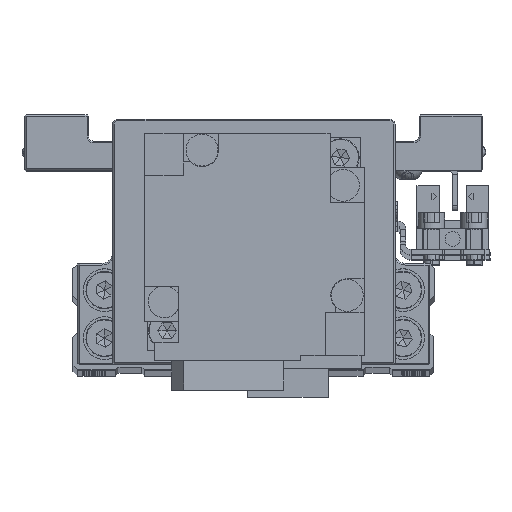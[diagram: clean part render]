
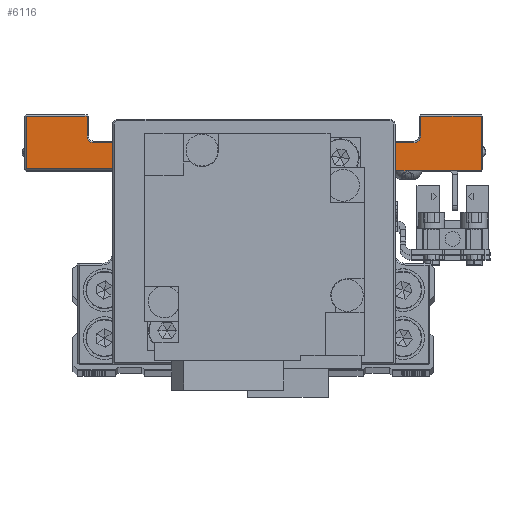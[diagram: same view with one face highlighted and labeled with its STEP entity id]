
A CAD part, top view. The second image highlights one B-rep face of the part: STEP entity #6116.
In plain terms, the highlighted planar face has unit normal (0, 0, 1) as drawn and (1, 0, 0) by its records, which use the part's own axes.
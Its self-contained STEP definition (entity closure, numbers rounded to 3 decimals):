
#69 = VERTEX_POINT ( 'NONE', #32636 ) ;
#79 = CARTESIAN_POINT ( 'NONE',  ( 45., 12.7, -30. ) ) ;
#896 = VECTOR ( 'NONE', #6924, 1000. ) ;
#930 = FACE_OUTER_BOUND ( 'NONE', #23410, .T. ) ;
#946 = CARTESIAN_POINT ( 'NONE',  ( 45., 7.8, 20. ) ) ;
#1246 = EDGE_CURVE ( 'NONE', #10537, #13513, #21040, .T. ) ;
#1362 = CARTESIAN_POINT ( 'NONE',  ( 45., 7.8, 42.7 ) ) ;
#1601 = CARTESIAN_POINT ( 'NONE',  ( 45., 7.5, 43. ) ) ;
#1937 = LINE ( 'NONE', #13317, #9819 ) ;
#2033 = VECTOR ( 'NONE', #12325, 1000. ) ;
#2083 = DIRECTION ( 'NONE',  ( -1., 0., 0. ) ) ;
#2484 = LINE ( 'NONE', #13850, #21450 ) ;
#2718 = EDGE_CURVE ( 'NONE', #5836, #23742, #11555, .T. ) ;
#2982 = ORIENTED_EDGE ( 'NONE', *, *, #11418, .T. ) ;
#3302 = CIRCLE ( 'NONE', #24079, 1.3 ) ;
#3801 = CARTESIAN_POINT ( 'NONE',  ( 45., 7.5, -19.7 ) ) ;
#3814 = ORIENTED_EDGE ( 'NONE', *, *, #34582, .T. ) ;
#3873 = DIRECTION ( 'NONE',  ( 0., -1., 0. ) ) ;
#5459 = DIRECTION ( 'NONE',  ( 0., 0., 1. ) ) ;
#5523 = VECTOR ( 'NONE', #3873, 1000. ) ;
#5836 = VERTEX_POINT ( 'NONE', #30521 ) ;
#5958 = CARTESIAN_POINT ( 'NONE',  ( 45., -8.2, 19.7 ) ) ;
#6116 = ADVANCED_FACE ( 'NONE', ( #930 ), #12313, .F. ) ;
#6924 = DIRECTION ( 'NONE',  ( 0., 1., 0. ) ) ;
#7601 = CARTESIAN_POINT ( 'NONE',  ( 45., 17.7, -20. ) ) ;
#7786 = CARTESIAN_POINT ( 'NONE',  ( 45., 7.5, 42.7 ) ) ;
#7966 = DIRECTION ( 'NONE',  ( 0., 0., 1. ) ) ;
#8546 = CARTESIAN_POINT ( 'NONE',  ( 45., 17.7, 42.7 ) ) ;
#8581 = VECTOR ( 'NONE', #18945, 1000. ) ;
#9033 = EDGE_CURVE ( 'NONE', #35037, #29061, #27078, .T. ) ;
#9455 = LINE ( 'NONE', #20784, #15199 ) ;
#9511 = DIRECTION ( 'NONE',  ( 0., 0., 1. ) ) ;
#9819 = VECTOR ( 'NONE', #24623, 1000. ) ;
#10537 = VERTEX_POINT ( 'NONE', #12028 ) ;
#11270 = VERTEX_POINT ( 'NONE', #8546 ) ;
#11304 = CARTESIAN_POINT ( 'NONE',  ( 45., 17.7, -20. ) ) ;
#11418 = EDGE_CURVE ( 'NONE', #69, #17222, #18030, .T. ) ;
#11555 = LINE ( 'NONE', #22886, #29406 ) ;
#12028 = CARTESIAN_POINT ( 'NONE',  ( 45., 14., 31.3 ) ) ;
#12313 = PLANE ( 'NONE',  #33226 ) ;
#12325 = DIRECTION ( 'NONE',  ( 0., 0., -1. ) ) ;
#12890 = ORIENTED_EDGE ( 'NONE', *, *, #18851, .T. ) ;
#12968 = DIRECTION ( 'NONE',  ( 0., 0., -1. ) ) ;
#13317 = CARTESIAN_POINT ( 'NONE',  ( 45., 7.5, -19.7 ) ) ;
#13458 = DIRECTION ( 'NONE',  ( 0., 0., 1. ) ) ;
#13513 = VERTEX_POINT ( 'NONE', #17992 ) ;
#13850 = CARTESIAN_POINT ( 'NONE',  ( 45., 7.5, -42.7 ) ) ;
#14527 = EDGE_CURVE ( 'NONE', #25568, #69, #26440, .T. ) ;
#15002 = EDGE_CURVE ( 'NONE', #25853, #35037, #1937, .T. ) ;
#15199 = VECTOR ( 'NONE', #32129, 1000. ) ;
#15517 = EDGE_CURVE ( 'NONE', #23742, #24448, #3302, .T. ) ;
#15540 = CARTESIAN_POINT ( 'NONE',  ( 45., 12.7, 30. ) ) ;
#16936 = CIRCLE ( 'NONE', #20799, 1.3 ) ;
#17222 = VERTEX_POINT ( 'NONE', #5958 ) ;
#17666 = VECTOR ( 'NONE', #19121, 1000. ) ;
#17992 = CARTESIAN_POINT ( 'NONE',  ( 45., 17.7, 31.3 ) ) ;
#18030 = LINE ( 'NONE', #29349, #5523 ) ;
#18193 = ORIENTED_EDGE ( 'NONE', *, *, #9033, .T. ) ;
#18838 = EDGE_CURVE ( 'NONE', #11270, #25568, #33237, .T. ) ;
#18851 = EDGE_CURVE ( 'NONE', #24448, #24635, #22095, .T. ) ;
#18914 = ORIENTED_EDGE ( 'NONE', *, *, #31838, .T. ) ;
#18943 = EDGE_CURVE ( 'NONE', #13513, #11270, #36747, .T. ) ;
#18945 = DIRECTION ( 'NONE',  ( 0., 0., 1. ) ) ;
#19121 = DIRECTION ( 'NONE',  ( 0., -1., 0. ) ) ;
#19586 = CARTESIAN_POINT ( 'NONE',  ( 45., 14., 30. ) ) ;
#20210 = ORIENTED_EDGE ( 'NONE', *, *, #15002, .T. ) ;
#20784 = CARTESIAN_POINT ( 'NONE',  ( 45., -8.2, -20. ) ) ;
#20799 = AXIS2_PLACEMENT_3D ( 'NONE', #19586, #30922, #5459 ) ;
#21040 = LINE ( 'NONE', #32379, #896 ) ;
#21450 = VECTOR ( 'NONE', #25166, 1000. ) ;
#21595 = VERTEX_POINT ( 'NONE', #24102 ) ;
#21759 = ORIENTED_EDGE ( 'NONE', *, *, #15517, .T. ) ;
#22078 = ORIENTED_EDGE ( 'NONE', *, *, #14527, .T. ) ;
#22095 = LINE ( 'NONE', #33414, #27123 ) ;
#22643 = DIRECTION ( 'NONE',  ( 0., 0., 1. ) ) ;
#22886 = CARTESIAN_POINT ( 'NONE',  ( 45., 7.5, -31.3 ) ) ;
#23151 = ORIENTED_EDGE ( 'NONE', *, *, #23600, .T. ) ;
#23410 = EDGE_LOOP ( 'NONE', ( #20210, #18193, #25124, #18914, #36486, #21759, #12890, #23151, #23446, #27396, #30223, #22078, #2982, #3814 ) ) ;
#23446 = ORIENTED_EDGE ( 'NONE', *, *, #1246, .T. ) ;
#23600 = EDGE_CURVE ( 'NONE', #24635, #10537, #16936, .T. ) ;
#23623 = CARTESIAN_POINT ( 'NONE',  ( 45., 7.5, -20. ) ) ;
#23742 = VERTEX_POINT ( 'NONE', #34811 ) ;
#24079 = AXIS2_PLACEMENT_3D ( 'NONE', #27565, #2083, #13458 ) ;
#24102 = CARTESIAN_POINT ( 'NONE',  ( 45., 17.7, -42.7 ) ) ;
#24448 = VERTEX_POINT ( 'NONE', #79 ) ;
#24623 = DIRECTION ( 'NONE',  ( 0., 1., 0. ) ) ;
#24635 = VERTEX_POINT ( 'NONE', #15540 ) ;
#25124 = ORIENTED_EDGE ( 'NONE', *, *, #28937, .T. ) ;
#25166 = DIRECTION ( 'NONE',  ( 0., 1., 0. ) ) ;
#25568 = VERTEX_POINT ( 'NONE', #1362 ) ;
#25736 = CARTESIAN_POINT ( 'NONE',  ( 45., 7.5, -42.7 ) ) ;
#25853 = VERTEX_POINT ( 'NONE', #33889 ) ;
#26440 = LINE ( 'NONE', #946, #2033 ) ;
#26659 = VECTOR ( 'NONE', #12968, 1000. ) ;
#27078 = LINE ( 'NONE', #1601, #26659 ) ;
#27123 = VECTOR ( 'NONE', #7966, 1000. ) ;
#27396 = ORIENTED_EDGE ( 'NONE', *, *, #18943, .T. ) ;
#27565 = CARTESIAN_POINT ( 'NONE',  ( 45., 14., -30. ) ) ;
#28937 = EDGE_CURVE ( 'NONE', #29061, #21595, #2484, .T. ) ;
#29061 = VERTEX_POINT ( 'NONE', #25736 ) ;
#29349 = CARTESIAN_POINT ( 'NONE',  ( 45., 7.5, 19.7 ) ) ;
#29406 = VECTOR ( 'NONE', #34214, 1000. ) ;
#30223 = ORIENTED_EDGE ( 'NONE', *, *, #18838, .T. ) ;
#30521 = CARTESIAN_POINT ( 'NONE',  ( 45., 17.7, -31.3 ) ) ;
#30922 = DIRECTION ( 'NONE',  ( -1., 0., 0. ) ) ;
#31838 = EDGE_CURVE ( 'NONE', #21595, #5836, #33055, .T. ) ;
#32129 = DIRECTION ( 'NONE',  ( 0., 0., -1. ) ) ;
#32379 = CARTESIAN_POINT ( 'NONE',  ( 45., 7.5, 31.3 ) ) ;
#32636 = CARTESIAN_POINT ( 'NONE',  ( 45., 7.8, 19.7 ) ) ;
#33055 = LINE ( 'NONE', #7601, #8581 ) ;
#33226 = AXIS2_PLACEMENT_3D ( 'NONE', #23623, #34965, #9511 ) ;
#33237 = LINE ( 'NONE', #7786, #17666 ) ;
#33414 = CARTESIAN_POINT ( 'NONE',  ( 45., 12.7, 30. ) ) ;
#33889 = CARTESIAN_POINT ( 'NONE',  ( 45., -8.2, -19.7 ) ) ;
#34214 = DIRECTION ( 'NONE',  ( 0., -1., 0. ) ) ;
#34582 = EDGE_CURVE ( 'NONE', #17222, #25853, #9455, .T. ) ;
#34811 = CARTESIAN_POINT ( 'NONE',  ( 45., 14., -31.3 ) ) ;
#34851 = VECTOR ( 'NONE', #22643, 1000. ) ;
#34965 = DIRECTION ( 'NONE',  ( -1., 0., 0. ) ) ;
#35037 = VERTEX_POINT ( 'NONE', #3801 ) ;
#36486 = ORIENTED_EDGE ( 'NONE', *, *, #2718, .T. ) ;
#36747 = LINE ( 'NONE', #11304, #34851 ) ;
